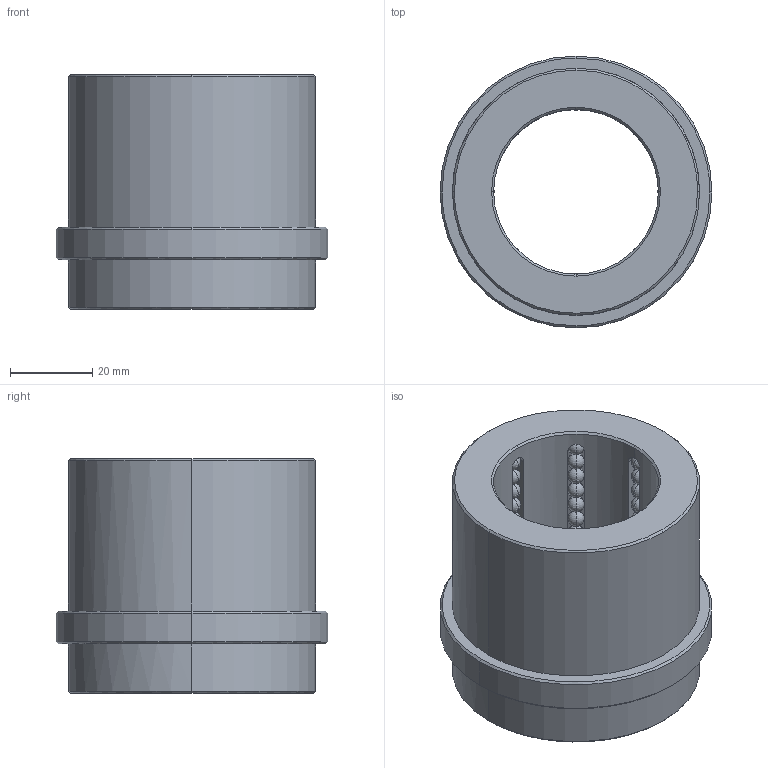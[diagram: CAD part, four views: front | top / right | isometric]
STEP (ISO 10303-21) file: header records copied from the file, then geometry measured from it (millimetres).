
FILE_DESCRIPTION(('CATIA V5 STEP Exchange'),'2;1');
FILE_NAME('C:\Users\Raffaele\Desktop\3D BOLEX\3D FILES CF BOLEX\2-BUSH REF 802\B8024045.stp','2019-06-19T13:53:46+00:00',('none'),('none'),'CATIA Version 5 Release 20 GA (IN-10)','CATIA V5 STEP AP203','none');
FILE_SCHEMA(('CONFIG_CONTROL_DESIGN'));
Length unit declared in the file: millimetre
Products named in the file (1): B8024045
Bounding box: 66 x 66 x 57 mm (x, y, z)
Volume: 91173.2 mm3; surface area: 30250.6 mm2
Topology: 97 solids, 97 shells, 460 faces, 1338 edges, 312 vertices
Faces by surface type: sphere 384, plane 28, cylinder 24, cone 24
Entity records: 9021 total; most frequent: CARTESIAN_POINT 1896, DIRECTION 1446, ORIENTED_EDGE 1140, AXIS2_PLACEMENT_3D 889, EDGE_CURVE 570, EDGE_LOOP 470, ADVANCED_FACE 460, FACE_OUTER_BOUND 460
